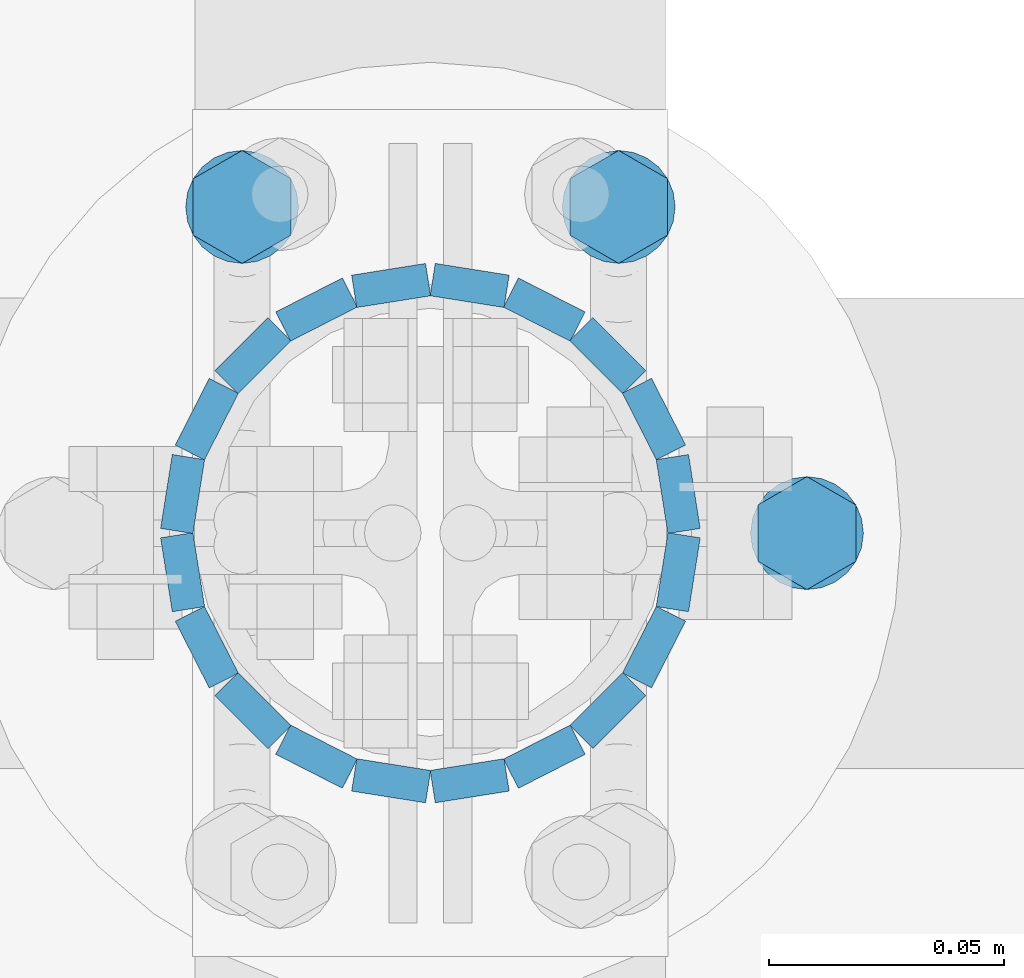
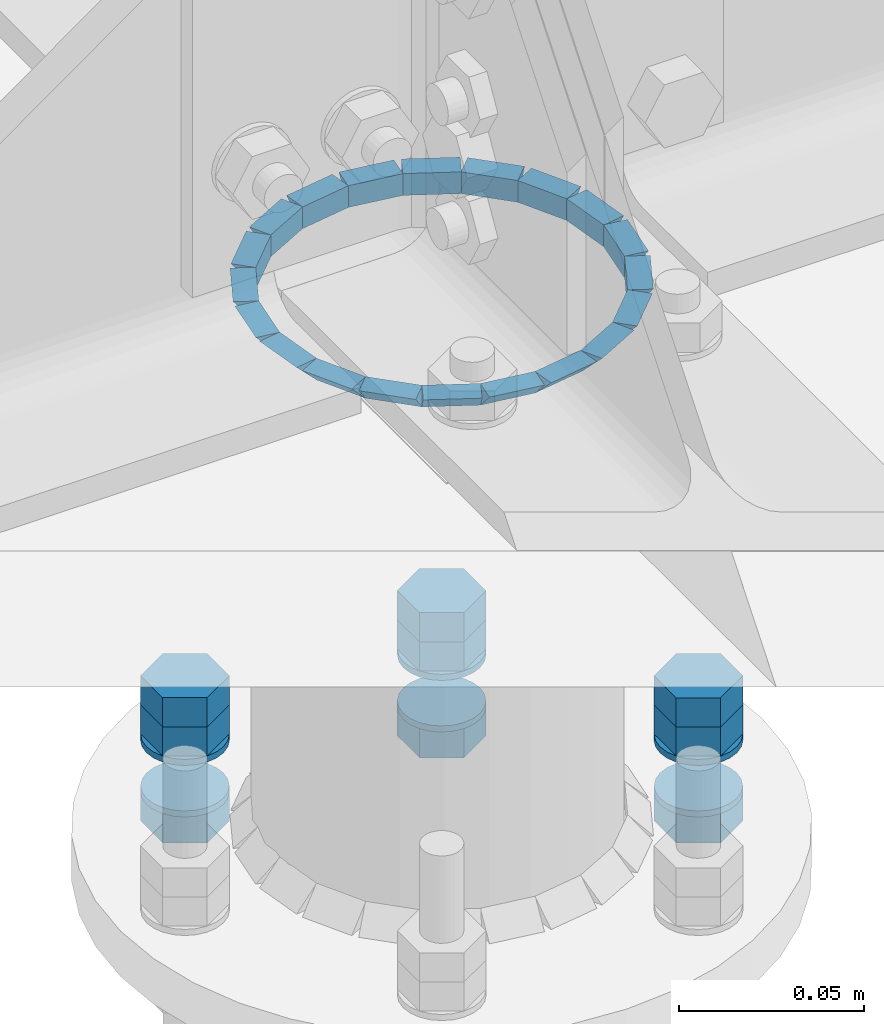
# One storey, part 53 of 84: 40 fasteners, 15 mechanical fasteners.
"""IFC4 building model written with IfcOpenShell, lengths in metres."""

from ifc_helpers import new_model, si_unit, frame, origin_with_axes, place, context, project, spatial, polyline, outline, extrude, type_object, element, save


model = new_model("IFC4")

# Units and contexts
model_context = context("Model", 3, precision=1e-05, world=origin_with_axes())
ifc_project = project(units=[si_unit("LENGTHUNIT", "METRE"), si_unit("AREAUNIT", "SQUARE_METRE"), si_unit("VOLUMEUNIT", "CUBIC_METRE"), si_unit("MASSUNIT", "GRAM", prefix="KILO"), si_unit("TIMEUNIT", "SECOND"), si_unit("PLANEANGLEUNIT", "RADIAN"), si_unit("SOLIDANGLEUNIT", "STERADIAN"), si_unit("THERMODYNAMICTEMPERATUREUNIT", "DEGREE_CELSIUS")], contexts=[model_context])

# Site, building, storey
placement_1 = place(None, origin_with_axes())
site = spatial("IfcSite", under=ifc_project, at=placement_1, Name="Italia", CompositionType="ELEMENT")
building = spatial("IfcBuilding", under=site, at=placement_1, Name="Tettoia", CompositionType="ELEMENT")
storey_placement = place(None, frame((0.0, 0.0, 4.199999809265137), z_axis=(0.0, 0.0, 1.0), x_axis=(1.0, 0.0, 0.0)))
storey = spatial("IfcBuildingStorey", under=building, at=storey_placement, Name="Storey 1", CompositionType="ELEMENT", Elevation=4.199999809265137)

# Mechanical fasteners
mechanical_fastener_type_1 = type_object("IfcMechanicalFastenerType", Name="Collegamento -012_0112", PredefinedType="BOLT")
placement_2 = place(placement_1, origin_with_axes())
mechanical_fastener_1_placement = place(placement_2, origin_with_axes())
element("IfcMechanicalFastener", 1, at=mechanical_fastener_1_placement, inside=storey, type_object=mechanical_fastener_type_1, Name="Collegamento -012_0112", NominalDiameter=0.0119991, context=model_context, shape_type="SweptSolid", body=[
    extrude(outline(polyline([(0.0, 0.0), (-0.0119991, 0.0), (-0.0179996, 0.0103922), (-0.0119991, 0.0207844), (0.0, 0.0207844), (0.00600052, 0.0103922), (0.0, 0.0)])), frame((4.16039, 13.956, 4.017), z_axis=(0.0, 0.0, 1.0), x_axis=(0.0, 1.0, 0.0)), (0.0, 0.0, 1.0), 0.00959969),
])
mechanical_fastener_type_2 = type_object("IfcMechanicalFastenerType", Name="Collegamento -012_0112", PredefinedType="BOLT")
mechanical_fastener_2_placement = place(placement_2, origin_with_axes())
element("IfcMechanicalFastener", 2, at=mechanical_fastener_2_placement, inside=storey, type_object=mechanical_fastener_type_2, Name="Collegamento -012_0112", NominalDiameter=0.0119991, context=model_context, shape_type="SweptSolid", body=[
    extrude(outline(polyline([(0.0, 0.0), (-0.0119991, 0.0), (-0.0179996, 0.0103922), (-0.0119991, 0.0207844), (0.0, 0.0207844), (0.00600052, 0.0103922), (0.0, 0.0)])), frame((4.16039, 13.956, 4.0266), z_axis=(0.0, 0.0, 1.0), x_axis=(0.0, 1.0, 0.0)), (0.0, 0.0, 1.0), 0.00960016),
])
mechanical_fastener_type_3 = type_object("IfcMechanicalFastenerType", Name="Collegamento -012_0112", PredefinedType="BOLT")
mechanical_fastener_3_placement = place(placement_2, origin_with_axes())
element("IfcMechanicalFastener", 3, at=mechanical_fastener_3_placement, inside=storey, type_object=mechanical_fastener_type_3, Name="Collegamento -012_0112", NominalDiameter=0.0119991, context=model_context, shape_type="SweptSolid", body=[
    extrude(outline(polyline([(0.0, 0.0), (-0.0119991, 0.0), (-0.0179996, 0.0103922), (-0.0119991, 0.0207844), (0.0, 0.0207844), (0.00600052, 0.0103922), (0.0, 0.0)])), frame((4.16039, 13.956, 3.9884), z_axis=(0.0, 0.0, 1.0), x_axis=(0.0, 1.0, 0.0)), (0.0, 0.0, 1.0), 0.00959992),
])
mechanical_fastener_type_4 = type_object("IfcMechanicalFastenerType", Name="Collegamento -012_0112", PredefinedType="BOLT")
mechanical_fastener_4_placement = place(placement_2, origin_with_axes())
element("IfcMechanicalFastener", 4, at=mechanical_fastener_4_placement, inside=storey, type_object=mechanical_fastener_type_4, Name="Collegamento -012_0112", NominalDiameter=0.024, context=model_context, shape_type="SweptSolid", body=[
    extrude(outline(polyline([(0.0, 0.0), (-0.000409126, -0.00310564), (-0.00160789, -0.00600004), (-0.00351524, -0.00848532), (-0.00600052, -0.0103922), (-0.00889397, -0.011591), (-0.0120001, -0.0120001), (-0.0151062, -0.011591), (-0.0179996, -0.0103922), (-0.0204849, -0.00848532), (-0.0223923, -0.00600004), (-0.023591, -0.00310564), (-0.0240002, 0.0), (-0.023591, 0.00310564), (-0.0223923, 0.00600004), (-0.0204849, 0.00848532), (-0.0179996, 0.0103922), (-0.0151062, 0.011591), (-0.0120001, 0.0120001), (-0.00889397, 0.011591), (-0.00600052, 0.0103922), (-0.00351524, 0.00848532), (-0.00160789, 0.00600004), (-0.000409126, 0.00310564), (0.0, 0.0)])), frame((4.15, 13.962, 4.015), z_axis=(0.0, 0.0, 1.0), x_axis=(0.0, 1.0, 0.0)), (0.0, 0.0, 1.0), 0.00200033),
])
mechanical_fastener_type_5 = type_object("IfcMechanicalFastenerType", Name="Collegamento -012_0112", PredefinedType="BOLT")
mechanical_fastener_5_placement = place(placement_2, origin_with_axes())
element("IfcMechanicalFastener", 5, at=mechanical_fastener_5_placement, inside=storey, type_object=mechanical_fastener_type_5, Name="Collegamento -012_0112", NominalDiameter=0.024, context=model_context, shape_type="SweptSolid", body=[
    extrude(outline(polyline([(0.0, 0.0), (-0.000409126, -0.00310564), (-0.00160789, -0.00600004), (-0.00351524, -0.00848532), (-0.00600052, -0.0103922), (-0.00889397, -0.011591), (-0.0120001, -0.0120001), (-0.0151062, -0.011591), (-0.0179996, -0.0103922), (-0.0204849, -0.00848532), (-0.0223923, -0.00600004), (-0.023591, -0.00310564), (-0.0240002, 0.0), (-0.023591, 0.00310564), (-0.0223923, 0.00600004), (-0.0204849, 0.00848532), (-0.0179996, 0.0103922), (-0.0151062, 0.011591), (-0.0120001, 0.0120001), (-0.00889397, 0.011591), (-0.00600052, 0.0103922), (-0.00351524, 0.00848532), (-0.00160789, 0.00600004), (-0.000409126, 0.00310564), (0.0, 0.0)])), frame((4.15, 13.962, 3.998), z_axis=(0.0, 0.0, 1.0), x_axis=(0.0, 1.0, 0.0)), (0.0, 0.0, 1.0), 0.00200009),
])
mechanical_fastener_type_6 = type_object("IfcMechanicalFastenerType", Name="Collegamento -012_0112", PredefinedType="BOLT")
mechanical_fastener_6_placement = place(placement_2, origin_with_axes())
element("IfcMechanicalFastener", 6, at=mechanical_fastener_6_placement, inside=storey, type_object=mechanical_fastener_type_6, Name="Collegamento -012_0112", NominalDiameter=0.0119997, context=model_context, shape_type="SweptSolid", body=[
    extrude(outline(polyline([(0.0, 0.0), (-0.0120001, 0.0), (-0.0179996, 0.0103922), (-0.0120001, 0.0207844), (0.0, 0.0207844), (0.00599957, 0.0103922), (0.0, 0.0)])), frame((4.12039, 14.0253, 4.017), z_axis=(0.0, 0.0, 1.0), x_axis=(0.0, 1.0, 0.0)), (0.0, 0.0, 1.0), 0.00959969),
])
mechanical_fastener_type_7 = type_object("IfcMechanicalFastenerType", Name="Collegamento -012_0112", PredefinedType="BOLT")
mechanical_fastener_7_placement = place(placement_2, origin_with_axes())
element("IfcMechanicalFastener", 7, at=mechanical_fastener_7_placement, inside=storey, type_object=mechanical_fastener_type_7, Name="Collegamento -012_0112", NominalDiameter=0.0119997, context=model_context, shape_type="SweptSolid", body=[
    extrude(outline(polyline([(0.0, 0.0), (-0.0120001, 0.0), (-0.0179996, 0.0103922), (-0.0120001, 0.0207844), (0.0, 0.0207844), (0.00599957, 0.0103922), (0.0, 0.0)])), frame((4.12039, 14.0253, 4.0266), z_axis=(0.0, 0.0, 1.0), x_axis=(0.0, 1.0, 0.0)), (0.0, 0.0, 1.0), 0.00960016),
])
mechanical_fastener_type_8 = type_object("IfcMechanicalFastenerType", Name="Collegamento -012_0112", PredefinedType="BOLT")
mechanical_fastener_8_placement = place(placement_2, origin_with_axes())
element("IfcMechanicalFastener", 8, at=mechanical_fastener_8_placement, inside=storey, type_object=mechanical_fastener_type_8, Name="Collegamento -012_0112", NominalDiameter=0.0119997, context=model_context, shape_type="SweptSolid", body=[
    extrude(outline(polyline([(0.0, 0.0), (-0.0120001, 0.0), (-0.0179996, 0.0103922), (-0.0120001, 0.0207844), (0.0, 0.0207844), (0.00599957, 0.0103922), (0.0, 0.0)])), frame((4.12039, 14.0253, 3.9884), z_axis=(0.0, 0.0, 1.0), x_axis=(0.0, 1.0, 0.0)), (0.0, 0.0, 1.0), 0.00959992),
])
mechanical_fastener_type_9 = type_object("IfcMechanicalFastenerType", Name="Collegamento -012_0112", PredefinedType="BOLT")
mechanical_fastener_9_placement = place(placement_2, origin_with_axes())
element("IfcMechanicalFastener", 9, at=mechanical_fastener_9_placement, inside=storey, type_object=mechanical_fastener_type_9, Name="Collegamento -012_0112", NominalDiameter=0.024, context=model_context, shape_type="SweptSolid", body=[
    extrude(outline(polyline([(0.0, 0.0), (-0.000409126, -0.00310564), (-0.00160789, -0.00600004), (-0.00351524, -0.00848532), (-0.00600052, -0.0103922), (-0.00889397, -0.011591), (-0.0120001, -0.0120001), (-0.0151062, -0.011591), (-0.0179996, -0.0103922), (-0.0204849, -0.00848532), (-0.0223923, -0.00600004), (-0.023591, -0.00310564), (-0.0240002, 0.0), (-0.023591, 0.00310564), (-0.0223923, 0.00600004), (-0.0204849, 0.00848532), (-0.0179996, 0.0103922), (-0.0151062, 0.011591), (-0.0120001, 0.0120001), (-0.00889397, 0.011591), (-0.00600052, 0.0103922), (-0.00351524, 0.00848532), (-0.00160789, 0.00600004), (-0.000409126, 0.00310564), (0.0, 0.0)])), frame((4.11, 14.0313, 4.015), z_axis=(0.0, 0.0, 1.0), x_axis=(0.0, 1.0, 0.0)), (0.0, 0.0, 1.0), 0.00200033),
])
mechanical_fastener_type_10 = type_object("IfcMechanicalFastenerType", Name="Collegamento -012_0112", PredefinedType="BOLT")
mechanical_fastener_10_placement = place(placement_2, origin_with_axes())
element("IfcMechanicalFastener", 10, at=mechanical_fastener_10_placement, inside=storey, type_object=mechanical_fastener_type_10, Name="Collegamento -012_0112", NominalDiameter=0.024, context=model_context, shape_type="SweptSolid", body=[
    extrude(outline(polyline([(0.0, 0.0), (-0.000409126, -0.00310564), (-0.00160789, -0.00600004), (-0.00351524, -0.00848532), (-0.00600052, -0.0103922), (-0.00889397, -0.011591), (-0.0120001, -0.0120001), (-0.0151062, -0.011591), (-0.0179996, -0.0103922), (-0.0204849, -0.00848532), (-0.0223923, -0.00600004), (-0.023591, -0.00310564), (-0.0240002, 0.0), (-0.023591, 0.00310564), (-0.0223923, 0.00600004), (-0.0204849, 0.00848532), (-0.0179996, 0.0103922), (-0.0151062, 0.011591), (-0.0120001, 0.0120001), (-0.00889397, 0.011591), (-0.00600052, 0.0103922), (-0.00351524, 0.00848532), (-0.00160789, 0.00600004), (-0.000409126, 0.00310564), (0.0, 0.0)])), frame((4.11, 14.0313, 3.998), z_axis=(0.0, 0.0, 1.0), x_axis=(0.0, 1.0, 0.0)), (0.0, 0.0, 1.0), 0.00200009),
])
mechanical_fastener_type_11 = type_object("IfcMechanicalFastenerType", Name="Collegamento -012_0112", PredefinedType="BOLT")
mechanical_fastener_11_placement = place(placement_2, origin_with_axes())
element("IfcMechanicalFastener", 11, at=mechanical_fastener_11_placement, inside=storey, type_object=mechanical_fastener_type_11, Name="Collegamento -012_0112", NominalDiameter=0.0119997, context=model_context, shape_type="SweptSolid", body=[
    extrude(outline(polyline([(0.0, 0.0), (-0.0120001, 0.0), (-0.0179996, 0.0103922), (-0.0120001, 0.0207844), (0.0, 0.0207844), (0.00599957, 0.0103922), (0.0, 0.0)])), frame((4.04039, 14.0253, 4.017), z_axis=(0.0, 0.0, 1.0), x_axis=(0.0, 1.0, 0.0)), (0.0, 0.0, 1.0), 0.00959969),
])
mechanical_fastener_type_12 = type_object("IfcMechanicalFastenerType", Name="Collegamento -012_0112", PredefinedType="BOLT")
mechanical_fastener_12_placement = place(placement_2, origin_with_axes())
element("IfcMechanicalFastener", 12, at=mechanical_fastener_12_placement, inside=storey, type_object=mechanical_fastener_type_12, Name="Collegamento -012_0112", NominalDiameter=0.0119997, context=model_context, shape_type="SweptSolid", body=[
    extrude(outline(polyline([(0.0, 0.0), (-0.0120001, 0.0), (-0.0179996, 0.0103922), (-0.0120001, 0.0207844), (0.0, 0.0207844), (0.00599957, 0.0103922), (0.0, 0.0)])), frame((4.04039, 14.0253, 4.0266), z_axis=(0.0, 0.0, 1.0), x_axis=(0.0, 1.0, 0.0)), (0.0, 0.0, 1.0), 0.00960016),
])
mechanical_fastener_type_13 = type_object("IfcMechanicalFastenerType", Name="Collegamento -012_0112", PredefinedType="BOLT")
mechanical_fastener_13_placement = place(placement_2, origin_with_axes())
element("IfcMechanicalFastener", 13, at=mechanical_fastener_13_placement, inside=storey, type_object=mechanical_fastener_type_13, Name="Collegamento -012_0112", NominalDiameter=0.0119997, context=model_context, shape_type="SweptSolid", body=[
    extrude(outline(polyline([(0.0, 0.0), (-0.0120001, 0.0), (-0.0179996, 0.0103922), (-0.0120001, 0.0207844), (0.0, 0.0207844), (0.00599957, 0.0103922), (0.0, 0.0)])), frame((4.04039, 14.0253, 3.9884), z_axis=(0.0, 0.0, 1.0), x_axis=(0.0, 1.0, 0.0)), (0.0, 0.0, 1.0), 0.00959992),
])
mechanical_fastener_type_14 = type_object("IfcMechanicalFastenerType", Name="Collegamento -012_0112", PredefinedType="BOLT")
mechanical_fastener_14_placement = place(placement_2, origin_with_axes())
element("IfcMechanicalFastener", 14, at=mechanical_fastener_14_placement, inside=storey, type_object=mechanical_fastener_type_14, Name="Collegamento -012_0112", NominalDiameter=0.024, context=model_context, shape_type="SweptSolid", body=[
    extrude(outline(polyline([(0.0, 0.0), (-0.000409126, -0.00310564), (-0.00160789, -0.00600004), (-0.00351524, -0.00848532), (-0.00600052, -0.0103922), (-0.00889397, -0.011591), (-0.0120001, -0.0120001), (-0.0151062, -0.011591), (-0.0179996, -0.0103922), (-0.0204849, -0.00848532), (-0.0223923, -0.00600004), (-0.023591, -0.00310564), (-0.0240002, 0.0), (-0.023591, 0.00310564), (-0.0223923, 0.00600004), (-0.0204849, 0.00848532), (-0.0179996, 0.0103922), (-0.0151062, 0.011591), (-0.0120001, 0.0120001), (-0.00889397, 0.011591), (-0.00600052, 0.0103922), (-0.00351524, 0.00848532), (-0.00160789, 0.00600004), (-0.000409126, 0.00310564), (0.0, 0.0)])), frame((4.03, 14.0313, 4.015), z_axis=(0.0, 0.0, 1.0), x_axis=(0.0, 1.0, 0.0)), (0.0, 0.0, 1.0), 0.00200033),
])
mechanical_fastener_type_15 = type_object("IfcMechanicalFastenerType", Name="Collegamento -012_0112", PredefinedType="BOLT")
mechanical_fastener_15_placement = place(placement_2, origin_with_axes())
element("IfcMechanicalFastener", 15, at=mechanical_fastener_15_placement, inside=storey, type_object=mechanical_fastener_type_15, Name="Collegamento -012_0112", NominalDiameter=0.024, context=model_context, shape_type="SweptSolid", body=[
    extrude(outline(polyline([(0.0, 0.0), (-0.000409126, -0.00310564), (-0.00160789, -0.00600004), (-0.00351524, -0.00848532), (-0.00600052, -0.0103922), (-0.00889397, -0.011591), (-0.0120001, -0.0120001), (-0.0151062, -0.011591), (-0.0179996, -0.0103922), (-0.0204849, -0.00848532), (-0.0223923, -0.00600004), (-0.023591, -0.00310564), (-0.0240002, 0.0), (-0.023591, 0.00310564), (-0.0223923, 0.00600004), (-0.0204849, 0.00848532), (-0.0179996, 0.0103922), (-0.0151062, 0.011591), (-0.0120001, 0.0120001), (-0.00889397, 0.011591), (-0.00600052, 0.0103922), (-0.00351524, 0.00848532), (-0.00160789, 0.00600004), (-0.000409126, 0.00310564), (0.0, 0.0)])), frame((4.03, 14.0313, 3.998), z_axis=(0.0, 0.0, 1.0), x_axis=(0.0, 1.0, 0.0)), (0.0, 0.0, 1.0), 0.00200009),
])

# Fasteners
fastener_type_1 = type_object("IfcFastenerType", Name="Collegamento 0112_-012", PredefinedType="WELD")
fastener_1_placement = place(placement_2, origin_with_axes())
element("IfcFastener", 16, at=fastener_1_placement, inside=storey, type_object=fastener_type_1, Name="Collegamento 0112_-012", context=model_context, shape_type="SweptSolid", body=[
    extrude(outline(polyline([(0.0, 0.0), (-0.00695896, -0.00717354), (-0.00695896, 0.0), (0.0, 0.0)])), frame((4.07103, 14.0073, 4.19505), z_axis=(0.987680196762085, -0.1564861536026, 0.0), x_axis=(0.156486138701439, 0.98768013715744, 0.0)), (0.0, 0.0, 1.0), 0.0159),
])
fastener_type_2 = type_object("IfcFastenerType", Name="Collegamento 0112_-012", PredefinedType="WELD")
fastener_2_placement = place(placement_2, origin_with_axes())
element("IfcFastener", 17, at=fastener_2_placement, inside=storey, type_object=fastener_type_2, Name="Collegamento 0112_-012", context=model_context, shape_type="SweptSolid", body=[
    extrude(outline(polyline([(0.0, 0.0), (-0.00695801, -0.00717354), (-0.00695801, 0.0), (0.0, 0.0)])), frame((4.0887, 14.0042, 4.19505), z_axis=(0.891006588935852, -0.453990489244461, 0.0), x_axis=(0.453990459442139, 0.891006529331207, 0.0)), (0.0, 0.0, 1.0), 0.0158998),
])
fastener_type_3 = type_object("IfcFastenerType", Name="Collegamento 0112_-012", PredefinedType="WELD")
fastener_3_placement = place(placement_2, origin_with_axes())
element("IfcFastener", 18, at=fastener_3_placement, inside=storey, type_object=fastener_type_3, Name="Collegamento 0112_-012", context=model_context, shape_type="SweptSolid", body=[
    extrude(outline(polyline([(0.0, 0.0), (-0.00695801, -0.00717354), (-0.00695801, 0.0), (0.0, 0.0)])), frame((4.10453, 13.9958, 4.19505), z_axis=(0.70710676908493, -0.70710676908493, 0.0), x_axis=(0.70710676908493, 0.70710676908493, 0.0)), (0.0, 0.0, 1.0), 0.0158998),
])
fastener_type_4 = type_object("IfcFastenerType", Name="Collegamento 0112_-012", PredefinedType="WELD")
fastener_4_placement = place(placement_2, origin_with_axes())
element("IfcFastener", 19, at=fastener_4_placement, inside=storey, type_object=fastener_type_4, Name="Collegamento 0112_-012", context=model_context, shape_type="SweptSolid", body=[
    extrude(outline(polyline([(0.0, 0.0), (-0.00695801, -0.00717354), (-0.00695801, 0.0), (0.0, 0.0)])), frame((4.11699, 13.9829, 4.19505), z_axis=(0.453990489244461, -0.891006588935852, 0.0), x_axis=(0.891006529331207, 0.453990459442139, 0.0)), (0.0, 0.0, 1.0), 0.0158998),
])
fastener_type_5 = type_object("IfcFastenerType", Name="Collegamento 0112_-012", PredefinedType="WELD")
fastener_5_placement = place(placement_2, origin_with_axes())
element("IfcFastener", 20, at=fastener_5_placement, inside=storey, type_object=fastener_type_5, Name="Collegamento 0112_-012", context=model_context, shape_type="SweptSolid", body=[
    extrude(outline(polyline([(0.0, 0.0), (-0.00695801, -0.00717354), (-0.00695801, 0.0), (0.0, 0.0)])), frame((4.12484, 13.9667, 4.19505), z_axis=(0.156398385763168, -0.987694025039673, 0.0), x_axis=(0.987694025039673, 0.156398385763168, 0.0)), (0.0, 0.0, 1.0), 0.0158998),
])
fastener_type_6 = type_object("IfcFastenerType", Name="Collegamento 0112_-012", PredefinedType="WELD")
fastener_6_placement = place(placement_2, origin_with_axes())
element("IfcFastener", 21, at=fastener_6_placement, inside=storey, type_object=fastener_type_6, Name="Collegamento 0112_-012", context=model_context, shape_type="SweptSolid", body=[
    extrude(outline(polyline([(0.0, 0.0), (-0.00695729, -0.00717354), (-0.00695729, 0.0), (0.0, 0.0)])), frame((4.12733, 13.949, 4.19505), z_axis=(-0.156398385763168, -0.987694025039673, 0.0), x_axis=(0.987694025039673, -0.156398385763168, 0.0)), (0.0, 0.0, 1.0), 0.0158998),
])
fastener_type_7 = type_object("IfcFastenerType", Name="Collegamento 0112_-012", PredefinedType="WELD")
fastener_7_placement = place(placement_2, origin_with_axes())
element("IfcFastener", 22, at=fastener_7_placement, inside=storey, type_object=fastener_type_7, Name="Collegamento 0112_-012", context=model_context, shape_type="SweptSolid", body=[
    extrude(outline(polyline([(0.0, 0.0), (-0.00695896, -0.00717354), (-0.00695896, 0.0), (0.0, 0.0)])), frame((4.12421, 13.9313, 4.19505), z_axis=(-0.453990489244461, -0.891006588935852, 0.0), x_axis=(0.891006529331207, -0.453990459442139, 0.0)), (0.0, 0.0, 1.0), 0.0158998),
])
fastener_type_8 = type_object("IfcFastenerType", Name="Collegamento 0112_-012", PredefinedType="WELD")
fastener_8_placement = place(placement_2, origin_with_axes())
element("IfcFastener", 23, at=fastener_8_placement, inside=storey, type_object=fastener_type_8, Name="Collegamento 0112_-012", context=model_context, shape_type="SweptSolid", body=[
    extrude(outline(polyline([(0.0, 0.0), (-0.00695801, -0.00717354), (-0.00695801, 0.0), (0.0, 0.0)])), frame((4.11578, 13.9155, 4.19505), z_axis=(-0.70710676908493, -0.70710676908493, 0.0), x_axis=(0.70710676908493, -0.70710676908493, 0.0)), (0.0, 0.0, 1.0), 0.0158998),
])
fastener_type_9 = type_object("IfcFastenerType", Name="Collegamento 0112_-012", PredefinedType="WELD")
fastener_9_placement = place(placement_2, origin_with_axes())
element("IfcFastener", 24, at=fastener_9_placement, inside=storey, type_object=fastener_type_9, Name="Collegamento 0112_-012", context=model_context, shape_type="SweptSolid", body=[
    extrude(outline(polyline([(0.0, 0.0), (-0.00695896, -0.00717354), (-0.00695896, 0.0), (0.0, 0.0)])), frame((4.10286, 13.903, 4.19505), z_axis=(-0.891006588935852, -0.453990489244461, 0.0), x_axis=(0.453990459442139, -0.891006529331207, 0.0)), (0.0, 0.0, 1.0), 0.0158998),
])
fastener_type_10 = type_object("IfcFastenerType", Name="Collegamento 0112_-012", PredefinedType="WELD")
fastener_10_placement = place(placement_2, origin_with_axes())
element("IfcFastener", 25, at=fastener_10_placement, inside=storey, type_object=fastener_type_10, Name="Collegamento 0112_-012", context=model_context, shape_type="SweptSolid", body=[
    extrude(outline(polyline([(0.0, 0.0), (-0.00695801, -0.00717354), (-0.00695801, 0.0), (0.0, 0.0)])), frame((4.08674, 13.8952, 4.19505), z_axis=(-0.987680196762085, -0.1564861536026, 0.0), x_axis=(0.156486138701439, -0.98768013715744, 0.0)), (0.0, 0.0, 1.0), 0.0159),
])
fastener_type_11 = type_object("IfcFastenerType", Name="Collegamento 0112_-012", PredefinedType="WELD")
fastener_11_placement = place(placement_2, origin_with_axes())
element("IfcFastener", 26, at=fastener_11_placement, inside=storey, type_object=fastener_type_11, Name="Collegamento 0112_-012", context=model_context, shape_type="SweptSolid", body=[
    extrude(outline(polyline([(0.0, 0.0), (-0.00695896, -0.00717354), (-0.00695896, 0.0), (0.0, 0.0)])), frame((4.06897, 13.8927, 4.19505), z_axis=(-0.987680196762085, 0.1564861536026, 0.0), x_axis=(-0.156486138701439, -0.98768013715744, 0.0)), (0.0, 0.0, 1.0), 0.0159),
])
fastener_type_12 = type_object("IfcFastenerType", Name="Collegamento 0112_-012", PredefinedType="WELD")
fastener_12_placement = place(placement_2, origin_with_axes())
element("IfcFastener", 27, at=fastener_12_placement, inside=storey, type_object=fastener_type_12, Name="Collegamento 0112_-012", context=model_context, shape_type="SweptSolid", body=[
    extrude(outline(polyline([(0.0, 0.0), (-0.00695801, -0.00717354), (-0.00695801, 0.0), (0.0, 0.0)])), frame((4.0513, 13.8958, 4.19505), z_axis=(-0.891006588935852, 0.453990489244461, 0.0), x_axis=(-0.453990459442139, -0.891006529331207, 0.0)), (0.0, 0.0, 1.0), 0.0158998),
])
fastener_type_13 = type_object("IfcFastenerType", Name="Collegamento 0112_-012", PredefinedType="WELD")
fastener_13_placement = place(placement_2, origin_with_axes())
element("IfcFastener", 28, at=fastener_13_placement, inside=storey, type_object=fastener_type_13, Name="Collegamento 0112_-012", context=model_context, shape_type="SweptSolid", body=[
    extrude(outline(polyline([(0.0, 0.0), (-0.00695705, -0.00717354), (-0.00695705, 0.0), (0.0, 0.0)])), frame((4.03547, 13.9042, 4.19505), z_axis=(-0.70710676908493, 0.70710676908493, 0.0), x_axis=(-0.70710676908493, -0.70710676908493, 0.0)), (0.0, 0.0, 1.0), 0.0158998),
])
fastener_type_14 = type_object("IfcFastenerType", Name="Collegamento 0112_-012", PredefinedType="WELD")
fastener_14_placement = place(placement_2, origin_with_axes())
element("IfcFastener", 29, at=fastener_14_placement, inside=storey, type_object=fastener_type_14, Name="Collegamento 0112_-012", context=model_context, shape_type="SweptSolid", body=[
    extrude(outline(polyline([(0.0, 0.0), (-0.00695896, -0.00717354), (-0.00695896, 0.0), (0.0, 0.0)])), frame((4.02301, 13.9171, 4.19505), z_axis=(-0.453990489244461, 0.891006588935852, 0.0), x_axis=(-0.891006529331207, -0.453990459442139, 0.0)), (0.0, 0.0, 1.0), 0.0158998),
])
fastener_type_15 = type_object("IfcFastenerType", Name="Collegamento 0112_-012", PredefinedType="WELD")
fastener_15_placement = place(placement_2, origin_with_axes())
element("IfcFastener", 30, at=fastener_15_placement, inside=storey, type_object=fastener_type_15, Name="Collegamento 0112_-012", context=model_context, shape_type="SweptSolid", body=[
    extrude(outline(polyline([(0.0, 0.0), (-0.00695848, -0.00717354), (-0.00695848, 0.0), (0.0, 0.0)])), frame((4.01516, 13.9333, 4.19505), z_axis=(-0.156398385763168, 0.987694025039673, 0.0), x_axis=(-0.987694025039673, -0.156398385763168, 0.0)), (0.0, 0.0, 1.0), 0.0158998),
])
fastener_type_16 = type_object("IfcFastenerType", Name="Collegamento 0112_-012", PredefinedType="WELD")
fastener_16_placement = place(placement_2, origin_with_axes())
element("IfcFastener", 31, at=fastener_16_placement, inside=storey, type_object=fastener_type_16, Name="Collegamento 0112_-012", context=model_context, shape_type="SweptSolid", body=[
    extrude(outline(polyline([(0.0, 0.0), (-0.00695777, -0.00717354), (-0.00695777, 0.0), (0.0, 0.0)])), frame((4.01267, 13.951, 4.19505), z_axis=(0.156398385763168, 0.987694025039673, 0.0), x_axis=(-0.987694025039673, 0.156398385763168, 0.0)), (0.0, 0.0, 1.0), 0.0158998),
])
fastener_type_17 = type_object("IfcFastenerType", Name="Collegamento 0112_-012", PredefinedType="WELD")
fastener_17_placement = place(placement_2, origin_with_axes())
element("IfcFastener", 32, at=fastener_17_placement, inside=storey, type_object=fastener_type_17, Name="Collegamento 0112_-012", context=model_context, shape_type="SweptSolid", body=[
    extrude(outline(polyline([(0.0, 0.0), (-0.00695848, -0.00717354), (-0.00695848, 0.0), (0.0, 0.0)])), frame((4.01579, 13.9687, 4.19505), z_axis=(0.453990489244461, 0.891006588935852, 0.0), x_axis=(-0.891006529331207, 0.453990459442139, 0.0)), (0.0, 0.0, 1.0), 0.0158998),
])
fastener_type_18 = type_object("IfcFastenerType", Name="Collegamento 0112_-012", PredefinedType="WELD")
fastener_18_placement = place(placement_2, origin_with_axes())
element("IfcFastener", 33, at=fastener_18_placement, inside=storey, type_object=fastener_type_18, Name="Collegamento 0112_-012", context=model_context, shape_type="SweptSolid", body=[
    extrude(outline(polyline([(0.0, 0.0), (-0.00695801, -0.00717354), (-0.00695801, 0.0), (0.0, 0.0)])), frame((4.02422, 13.9845, 4.19505), z_axis=(0.70710676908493, 0.70710676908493, 0.0), x_axis=(-0.70710676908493, 0.70710676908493, 0.0)), (0.0, 0.0, 1.0), 0.0158998),
])
fastener_type_19 = type_object("IfcFastenerType", Name="Collegamento 0112_-012", PredefinedType="WELD")
fastener_19_placement = place(placement_2, origin_with_axes())
element("IfcFastener", 34, at=fastener_19_placement, inside=storey, type_object=fastener_type_19, Name="Collegamento 0112_-012", context=model_context, shape_type="SweptSolid", body=[
    extrude(outline(polyline([(0.0, 0.0), (-0.00695705, -0.00717354), (-0.00695705, 0.0), (0.0, 0.0)])), frame((4.03714, 13.997, 4.19505), z_axis=(0.891006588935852, 0.453990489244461, 0.0), x_axis=(-0.453990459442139, 0.891006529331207, 0.0)), (0.0, 0.0, 1.0), 0.0158998),
])
fastener_type_20 = type_object("IfcFastenerType", Name="Collegamento 0112_-012", PredefinedType="WELD")
fastener_20_placement = place(placement_2, origin_with_axes())
element("IfcFastener", 35, at=fastener_20_placement, inside=storey, type_object=fastener_type_20, Name="Collegamento 0112_-012", context=model_context, shape_type="SweptSolid", body=[
    extrude(outline(polyline([(0.0, 0.0), (-0.00695705, -0.00717354), (-0.00695705, 0.0), (0.0, 0.0)])), frame((4.05326, 14.0048, 4.19505), z_axis=(0.987680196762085, 0.1564861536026, 0.0), x_axis=(-0.156486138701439, 0.98768013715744, 0.0)), (0.0, 0.0, 1.0), 0.0159),
])
fastener_type_21 = type_object("IfcFastenerType", Name="Collegamento 0112_-012", PredefinedType="WELD")
fastener_21_placement = place(placement_2, origin_with_axes())
element("IfcFastener", 36, at=fastener_21_placement, inside=storey, type_object=fastener_type_21, Name="Collegamento 0112_-012", context=model_context, shape_type="SweptSolid", body=[
    extrude(outline(polyline([(0.0, 0.0), (-0.00695896, -0.00717354), (-0.00695896, 0.0), (0.0, 0.0)])), frame((4.07103, 14.0073, 4.19505), z_axis=(0.987680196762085, -0.1564861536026, 0.0), x_axis=(0.156486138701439, 0.98768013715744, 0.0)), (0.0, 0.0, 1.0), 0.0159),
])
fastener_type_22 = type_object("IfcFastenerType", Name="Collegamento 0112_-012", PredefinedType="WELD")
fastener_22_placement = place(placement_2, origin_with_axes())
element("IfcFastener", 37, at=fastener_22_placement, inside=storey, type_object=fastener_type_22, Name="Collegamento 0112_-012", context=model_context, shape_type="SweptSolid", body=[
    extrude(outline(polyline([(0.0, 0.0), (-0.00695801, -0.00717354), (-0.00695801, 0.0), (0.0, 0.0)])), frame((4.0887, 14.0042, 4.19505), z_axis=(0.891006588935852, -0.453990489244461, 0.0), x_axis=(0.453990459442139, 0.891006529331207, 0.0)), (0.0, 0.0, 1.0), 0.0158998),
])
fastener_type_23 = type_object("IfcFastenerType", Name="Collegamento 0112_-012", PredefinedType="WELD")
fastener_23_placement = place(placement_2, origin_with_axes())
element("IfcFastener", 38, at=fastener_23_placement, inside=storey, type_object=fastener_type_23, Name="Collegamento 0112_-012", context=model_context, shape_type="SweptSolid", body=[
    extrude(outline(polyline([(0.0, 0.0), (-0.00695801, -0.00717354), (-0.00695801, 0.0), (0.0, 0.0)])), frame((4.10453, 13.9958, 4.19505), z_axis=(0.70710676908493, -0.70710676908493, 0.0), x_axis=(0.70710676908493, 0.70710676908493, 0.0)), (0.0, 0.0, 1.0), 0.0158998),
])
fastener_type_24 = type_object("IfcFastenerType", Name="Collegamento 0112_-012", PredefinedType="WELD")
fastener_24_placement = place(placement_2, origin_with_axes())
element("IfcFastener", 39, at=fastener_24_placement, inside=storey, type_object=fastener_type_24, Name="Collegamento 0112_-012", context=model_context, shape_type="SweptSolid", body=[
    extrude(outline(polyline([(0.0, 0.0), (-0.00695801, -0.00717354), (-0.00695801, 0.0), (0.0, 0.0)])), frame((4.11699, 13.9829, 4.19505), z_axis=(0.453990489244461, -0.891006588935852, 0.0), x_axis=(0.891006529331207, 0.453990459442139, 0.0)), (0.0, 0.0, 1.0), 0.0158998),
])
fastener_type_25 = type_object("IfcFastenerType", Name="Collegamento 0112_-012", PredefinedType="WELD")
fastener_25_placement = place(placement_2, origin_with_axes())
element("IfcFastener", 40, at=fastener_25_placement, inside=storey, type_object=fastener_type_25, Name="Collegamento 0112_-012", context=model_context, shape_type="SweptSolid", body=[
    extrude(outline(polyline([(0.0, 0.0), (-0.00695801, -0.00717354), (-0.00695801, 0.0), (0.0, 0.0)])), frame((4.12484, 13.9667, 4.19505), z_axis=(0.156398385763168, -0.987694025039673, 0.0), x_axis=(0.987694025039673, 0.156398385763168, 0.0)), (0.0, 0.0, 1.0), 0.0158998),
])
fastener_type_26 = type_object("IfcFastenerType", Name="Collegamento 0112_-012", PredefinedType="WELD")
fastener_26_placement = place(placement_2, origin_with_axes())
element("IfcFastener", 41, at=fastener_26_placement, inside=storey, type_object=fastener_type_26, Name="Collegamento 0112_-012", context=model_context, shape_type="SweptSolid", body=[
    extrude(outline(polyline([(0.0, 0.0), (-0.00695729, -0.00717354), (-0.00695729, 0.0), (0.0, 0.0)])), frame((4.12733, 13.949, 4.19505), z_axis=(-0.156398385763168, -0.987694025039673, 0.0), x_axis=(0.987694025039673, -0.156398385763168, 0.0)), (0.0, 0.0, 1.0), 0.0158998),
])
fastener_type_27 = type_object("IfcFastenerType", Name="Collegamento 0112_-012", PredefinedType="WELD")
fastener_27_placement = place(placement_2, origin_with_axes())
element("IfcFastener", 42, at=fastener_27_placement, inside=storey, type_object=fastener_type_27, Name="Collegamento 0112_-012", context=model_context, shape_type="SweptSolid", body=[
    extrude(outline(polyline([(0.0, 0.0), (-0.00695896, -0.00717354), (-0.00695896, 0.0), (0.0, 0.0)])), frame((4.12421, 13.9313, 4.19505), z_axis=(-0.453990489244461, -0.891006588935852, 0.0), x_axis=(0.891006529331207, -0.453990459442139, 0.0)), (0.0, 0.0, 1.0), 0.0158998),
])
fastener_type_28 = type_object("IfcFastenerType", Name="Collegamento 0112_-012", PredefinedType="WELD")
fastener_28_placement = place(placement_2, origin_with_axes())
element("IfcFastener", 43, at=fastener_28_placement, inside=storey, type_object=fastener_type_28, Name="Collegamento 0112_-012", context=model_context, shape_type="SweptSolid", body=[
    extrude(outline(polyline([(0.0, 0.0), (-0.00695801, -0.00717354), (-0.00695801, 0.0), (0.0, 0.0)])), frame((4.11578, 13.9155, 4.19505), z_axis=(-0.70710676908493, -0.70710676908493, 0.0), x_axis=(0.70710676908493, -0.70710676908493, 0.0)), (0.0, 0.0, 1.0), 0.0158998),
])
fastener_type_29 = type_object("IfcFastenerType", Name="Collegamento 0112_-012", PredefinedType="WELD")
fastener_29_placement = place(placement_2, origin_with_axes())
element("IfcFastener", 44, at=fastener_29_placement, inside=storey, type_object=fastener_type_29, Name="Collegamento 0112_-012", context=model_context, shape_type="SweptSolid", body=[
    extrude(outline(polyline([(0.0, 0.0), (-0.00695896, -0.00717354), (-0.00695896, 0.0), (0.0, 0.0)])), frame((4.10286, 13.903, 4.19505), z_axis=(-0.891006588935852, -0.453990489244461, 0.0), x_axis=(0.453990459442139, -0.891006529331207, 0.0)), (0.0, 0.0, 1.0), 0.0158998),
])
fastener_type_30 = type_object("IfcFastenerType", Name="Collegamento 0112_-012", PredefinedType="WELD")
fastener_30_placement = place(placement_2, origin_with_axes())
element("IfcFastener", 45, at=fastener_30_placement, inside=storey, type_object=fastener_type_30, Name="Collegamento 0112_-012", context=model_context, shape_type="SweptSolid", body=[
    extrude(outline(polyline([(0.0, 0.0), (-0.00695801, -0.00717354), (-0.00695801, 0.0), (0.0, 0.0)])), frame((4.08674, 13.8952, 4.19505), z_axis=(-0.987680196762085, -0.1564861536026, 0.0), x_axis=(0.156486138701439, -0.98768013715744, 0.0)), (0.0, 0.0, 1.0), 0.0159),
])
fastener_type_31 = type_object("IfcFastenerType", Name="Collegamento 0112_-012", PredefinedType="WELD")
fastener_31_placement = place(placement_2, origin_with_axes())
element("IfcFastener", 46, at=fastener_31_placement, inside=storey, type_object=fastener_type_31, Name="Collegamento 0112_-012", context=model_context, shape_type="SweptSolid", body=[
    extrude(outline(polyline([(0.0, 0.0), (-0.00695896, -0.00717354), (-0.00695896, 0.0), (0.0, 0.0)])), frame((4.06897, 13.8927, 4.19505), z_axis=(-0.987680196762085, 0.1564861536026, 0.0), x_axis=(-0.156486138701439, -0.98768013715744, 0.0)), (0.0, 0.0, 1.0), 0.0159),
])
fastener_type_32 = type_object("IfcFastenerType", Name="Collegamento 0112_-012", PredefinedType="WELD")
fastener_32_placement = place(placement_2, origin_with_axes())
element("IfcFastener", 47, at=fastener_32_placement, inside=storey, type_object=fastener_type_32, Name="Collegamento 0112_-012", context=model_context, shape_type="SweptSolid", body=[
    extrude(outline(polyline([(0.0, 0.0), (-0.00695801, -0.00717354), (-0.00695801, 0.0), (0.0, 0.0)])), frame((4.0513, 13.8958, 4.19505), z_axis=(-0.891006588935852, 0.453990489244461, 0.0), x_axis=(-0.453990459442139, -0.891006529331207, 0.0)), (0.0, 0.0, 1.0), 0.0158998),
])
fastener_type_33 = type_object("IfcFastenerType", Name="Collegamento 0112_-012", PredefinedType="WELD")
fastener_33_placement = place(placement_2, origin_with_axes())
element("IfcFastener", 48, at=fastener_33_placement, inside=storey, type_object=fastener_type_33, Name="Collegamento 0112_-012", context=model_context, shape_type="SweptSolid", body=[
    extrude(outline(polyline([(0.0, 0.0), (-0.00695705, -0.00717354), (-0.00695705, 0.0), (0.0, 0.0)])), frame((4.03547, 13.9042, 4.19505), z_axis=(-0.70710676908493, 0.70710676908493, 0.0), x_axis=(-0.70710676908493, -0.70710676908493, 0.0)), (0.0, 0.0, 1.0), 0.0158998),
])
fastener_type_34 = type_object("IfcFastenerType", Name="Collegamento 0112_-012", PredefinedType="WELD")
fastener_34_placement = place(placement_2, origin_with_axes())
element("IfcFastener", 49, at=fastener_34_placement, inside=storey, type_object=fastener_type_34, Name="Collegamento 0112_-012", context=model_context, shape_type="SweptSolid", body=[
    extrude(outline(polyline([(0.0, 0.0), (-0.00695896, -0.00717354), (-0.00695896, 0.0), (0.0, 0.0)])), frame((4.02301, 13.9171, 4.19505), z_axis=(-0.453990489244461, 0.891006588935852, 0.0), x_axis=(-0.891006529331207, -0.453990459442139, 0.0)), (0.0, 0.0, 1.0), 0.0158998),
])
fastener_type_35 = type_object("IfcFastenerType", Name="Collegamento 0112_-012", PredefinedType="WELD")
fastener_35_placement = place(placement_2, origin_with_axes())
element("IfcFastener", 50, at=fastener_35_placement, inside=storey, type_object=fastener_type_35, Name="Collegamento 0112_-012", context=model_context, shape_type="SweptSolid", body=[
    extrude(outline(polyline([(0.0, 0.0), (-0.00695848, -0.00717354), (-0.00695848, 0.0), (0.0, 0.0)])), frame((4.01516, 13.9333, 4.19505), z_axis=(-0.156398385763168, 0.987694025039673, 0.0), x_axis=(-0.987694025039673, -0.156398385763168, 0.0)), (0.0, 0.0, 1.0), 0.0158998),
])
fastener_type_36 = type_object("IfcFastenerType", Name="Collegamento 0112_-012", PredefinedType="WELD")
fastener_36_placement = place(placement_2, origin_with_axes())
element("IfcFastener", 51, at=fastener_36_placement, inside=storey, type_object=fastener_type_36, Name="Collegamento 0112_-012", context=model_context, shape_type="SweptSolid", body=[
    extrude(outline(polyline([(0.0, 0.0), (-0.00695777, -0.00717354), (-0.00695777, 0.0), (0.0, 0.0)])), frame((4.01267, 13.951, 4.19505), z_axis=(0.156398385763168, 0.987694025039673, 0.0), x_axis=(-0.987694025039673, 0.156398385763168, 0.0)), (0.0, 0.0, 1.0), 0.0158998),
])
fastener_type_37 = type_object("IfcFastenerType", Name="Collegamento 0112_-012", PredefinedType="WELD")
fastener_37_placement = place(placement_2, origin_with_axes())
element("IfcFastener", 52, at=fastener_37_placement, inside=storey, type_object=fastener_type_37, Name="Collegamento 0112_-012", context=model_context, shape_type="SweptSolid", body=[
    extrude(outline(polyline([(0.0, 0.0), (-0.00695848, -0.00717354), (-0.00695848, 0.0), (0.0, 0.0)])), frame((4.01579, 13.9687, 4.19505), z_axis=(0.453990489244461, 0.891006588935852, 0.0), x_axis=(-0.891006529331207, 0.453990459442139, 0.0)), (0.0, 0.0, 1.0), 0.0158998),
])
fastener_type_38 = type_object("IfcFastenerType", Name="Collegamento 0112_-012", PredefinedType="WELD")
fastener_38_placement = place(placement_2, origin_with_axes())
element("IfcFastener", 53, at=fastener_38_placement, inside=storey, type_object=fastener_type_38, Name="Collegamento 0112_-012", context=model_context, shape_type="SweptSolid", body=[
    extrude(outline(polyline([(0.0, 0.0), (-0.00695801, -0.00717354), (-0.00695801, 0.0), (0.0, 0.0)])), frame((4.02422, 13.9845, 4.19505), z_axis=(0.70710676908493, 0.70710676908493, 0.0), x_axis=(-0.70710676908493, 0.70710676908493, 0.0)), (0.0, 0.0, 1.0), 0.0158998),
])
fastener_type_39 = type_object("IfcFastenerType", Name="Collegamento 0112_-012", PredefinedType="WELD")
fastener_39_placement = place(placement_2, origin_with_axes())
element("IfcFastener", 54, at=fastener_39_placement, inside=storey, type_object=fastener_type_39, Name="Collegamento 0112_-012", context=model_context, shape_type="SweptSolid", body=[
    extrude(outline(polyline([(0.0, 0.0), (-0.00695705, -0.00717354), (-0.00695705, 0.0), (0.0, 0.0)])), frame((4.03714, 13.997, 4.19505), z_axis=(0.891006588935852, 0.453990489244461, 0.0), x_axis=(-0.453990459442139, 0.891006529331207, 0.0)), (0.0, 0.0, 1.0), 0.0158998),
])
fastener_type_40 = type_object("IfcFastenerType", Name="Collegamento 0112_-012", PredefinedType="WELD")
fastener_40_placement = place(placement_2, origin_with_axes())
element("IfcFastener", 55, at=fastener_40_placement, inside=storey, type_object=fastener_type_40, Name="Collegamento 0112_-012", context=model_context, shape_type="SweptSolid", body=[
    extrude(outline(polyline([(0.0, 0.0), (-0.00695705, -0.00717354), (-0.00695705, 0.0), (0.0, 0.0)])), frame((4.05326, 14.0048, 4.19505), z_axis=(0.987680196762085, 0.1564861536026, 0.0), x_axis=(-0.156486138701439, 0.98768013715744, 0.0)), (0.0, 0.0, 1.0), 0.0159),
])

save(model, "model.ifc")
